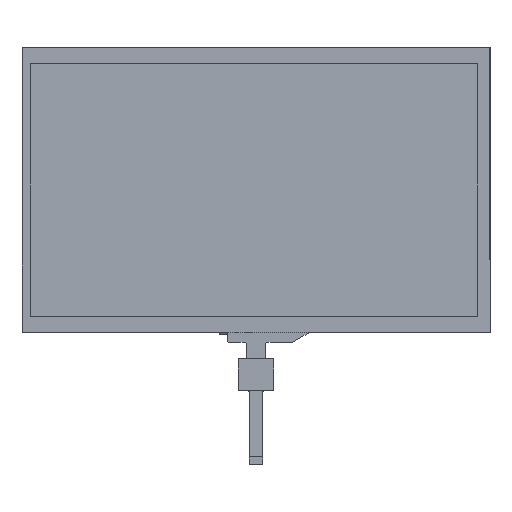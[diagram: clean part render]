
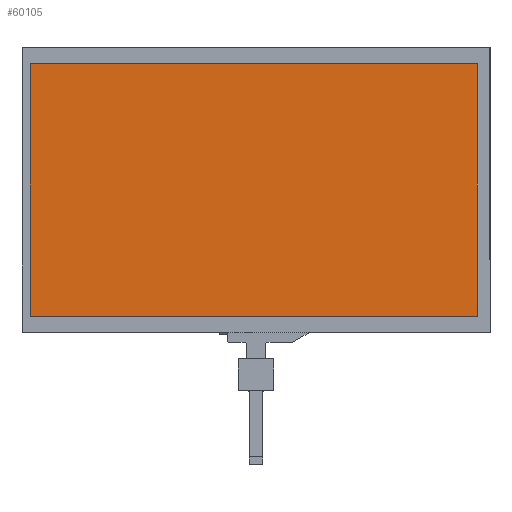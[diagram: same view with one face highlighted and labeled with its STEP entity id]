
A CAD part, top view. The second image highlights one B-rep face of the part: STEP entity #60105.
In plain terms, the highlighted planar face has unit normal (0, 0, 1).
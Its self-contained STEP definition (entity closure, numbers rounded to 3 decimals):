
#1015 = EDGE_CURVE ( 'NONE', #32614, #35266, #32270, .T. ) ;
#7883 = FACE_OUTER_BOUND ( 'NONE', #8506, .T. ) ;
#8312 = VECTOR ( 'NONE', #57737, 1000. ) ;
#8506 = EDGE_LOOP ( 'NONE', ( #42332, #15626, #59362, #31861 ) ) ;
#9358 = CARTESIAN_POINT ( 'NONE',  ( 111.02, 63.38, 0.7 ) ) ;
#15626 = ORIENTED_EDGE ( 'NONE', *, *, #28262, .T. ) ;
#16476 = DIRECTION ( 'NONE',  ( 0., 0., 1. ) ) ;
#16917 = CARTESIAN_POINT ( 'NONE',  ( -113.45, -63.61, 0.7 ) ) ;
#18841 = DIRECTION ( 'NONE',  ( 1., 0., 0. ) ) ;
#19030 = VECTOR ( 'NONE', #38978, 1000. ) ;
#22931 = VERTEX_POINT ( 'NONE', #9358 ) ;
#27675 = EDGE_CURVE ( 'NONE', #34691, #22931, #48694, .T. ) ;
#28262 = EDGE_CURVE ( 'NONE', #35266, #34691, #57174, .T. ) ;
#28278 = DIRECTION ( 'NONE',  ( 0., 1., 0. ) ) ;
#31861 = ORIENTED_EDGE ( 'NONE', *, *, #57448, .T. ) ;
#32270 = LINE ( 'NONE', #53865, #19030 ) ;
#32614 = VERTEX_POINT ( 'NONE', #37073 ) ;
#33666 = CARTESIAN_POINT ( 'NONE',  ( -113.45, -63.61, 0.7 ) ) ;
#34691 = VERTEX_POINT ( 'NONE', #62006 ) ;
#35266 = VERTEX_POINT ( 'NONE', #16917 ) ;
#35398 = VECTOR ( 'NONE', #28278, 1000. ) ;
#37073 = CARTESIAN_POINT ( 'NONE',  ( -113.45, 63.38, 0.7 ) ) ;
#38978 = DIRECTION ( 'NONE',  ( 0., -1., 0. ) ) ;
#42332 = ORIENTED_EDGE ( 'NONE', *, *, #1015, .T. ) ;
#43849 = VECTOR ( 'NONE', #18841, 1000. ) ;
#46320 = PLANE ( 'NONE',  #62732 ) ;
#48114 = LINE ( 'NONE', #52714, #8312 ) ;
#48694 = LINE ( 'NONE', #58001, #35398 ) ;
#51379 = DIRECTION ( 'NONE',  ( 1., 0., 0. ) ) ;
#52714 = CARTESIAN_POINT ( 'NONE',  ( -113.45, 63.38, 0.7 ) ) ;
#53865 = CARTESIAN_POINT ( 'NONE',  ( -113.45, 63.38, 0.7 ) ) ;
#57174 = LINE ( 'NONE', #33666, #43849 ) ;
#57448 = EDGE_CURVE ( 'NONE', #22931, #32614, #48114, .T. ) ;
#57737 = DIRECTION ( 'NONE',  ( -1., 0., 0. ) ) ;
#58001 = CARTESIAN_POINT ( 'NONE',  ( 111.02, 63.38, 0.7 ) ) ;
#59362 = ORIENTED_EDGE ( 'NONE', *, *, #27675, .T. ) ;
#60105 = ADVANCED_FACE ( 'NONE', ( #7883 ), #46320, .T. ) ;
#61251 = CARTESIAN_POINT ( 'NONE',  ( 0., 0., 0.7 ) ) ;
#62006 = CARTESIAN_POINT ( 'NONE',  ( 111.02, -63.61, 0.7 ) ) ;
#62732 = AXIS2_PLACEMENT_3D ( 'NONE', #61251, #16476, #51379 ) ;
